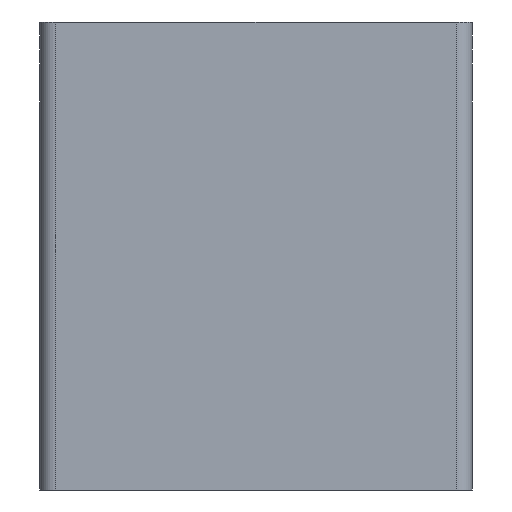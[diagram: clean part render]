
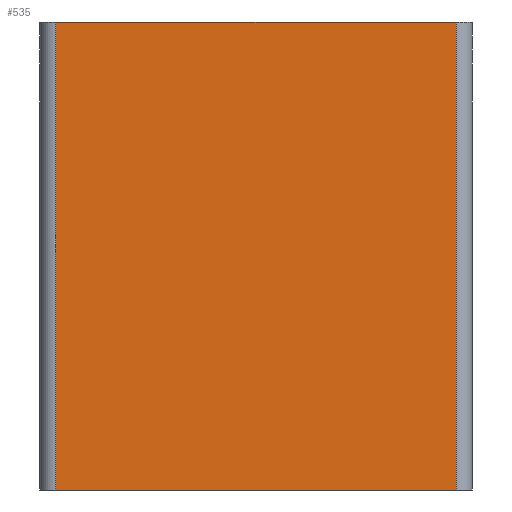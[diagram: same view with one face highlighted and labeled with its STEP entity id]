
A CAD part, left-side view. The second image highlights one B-rep face of the part: STEP entity #535.
In plain terms, the highlighted planar face has unit normal (-1, 0, 0).
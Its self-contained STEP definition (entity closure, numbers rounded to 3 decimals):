
#6 = ORIENTED_EDGE ( 'NONE', *, *, #136, .T. ) ;
#81 = CARTESIAN_POINT ( 'NONE',  ( -9.5, 8.5, 0. ) ) ;
#97 = DIRECTION ( 'NONE',  ( 0., 0., -1. ) ) ;
#136 = EDGE_CURVE ( 'NONE', #183, #181, #560, .T. ) ;
#169 = AXIS2_PLACEMENT_3D ( 'NONE', #454, #457, #97 ) ;
#171 = VECTOR ( 'NONE', #384, 1000. ) ;
#180 = EDGE_CURVE ( 'NONE', #666, #183, #476, .T. ) ;
#181 = VERTEX_POINT ( 'NONE', #525 ) ;
#183 = VERTEX_POINT ( 'NONE', #765 ) ;
#191 = DIRECTION ( 'NONE',  ( 0., -1., 0. ) ) ;
#252 = CARTESIAN_POINT ( 'NONE',  ( -9.5, -4.4, 0. ) ) ;
#265 = DIRECTION ( 'NONE',  ( 0., -1., 0. ) ) ;
#314 = LINE ( 'NONE', #365, #674 ) ;
#315 = VECTOR ( 'NONE', #265, 1000. ) ;
#319 = CARTESIAN_POINT ( 'NONE',  ( -9.5, -3.9, 14.5 ) ) ;
#335 = ORIENTED_EDGE ( 'NONE', *, *, #180, .T. ) ;
#341 = EDGE_CURVE ( 'NONE', #181, #419, #314, .T. ) ;
#363 = EDGE_CURVE ( 'NONE', #666, #419, #717, .T. ) ;
#365 = CARTESIAN_POINT ( 'NONE',  ( -9.5, -3.9, 14.5 ) ) ;
#384 = DIRECTION ( 'NONE',  ( 0., 0., -1. ) ) ;
#419 = VERTEX_POINT ( 'NONE', #319 ) ;
#454 = CARTESIAN_POINT ( 'NONE',  ( -9.5, -4.4, 14.5 ) ) ;
#457 = DIRECTION ( 'NONE',  ( 1., 0., 0. ) ) ;
#476 = LINE ( 'NONE', #81, #171 ) ;
#516 = EDGE_LOOP ( 'NONE', ( #528, #335, #6, #563 ) ) ;
#525 = CARTESIAN_POINT ( 'NONE',  ( -9.5, -3.9, 0. ) ) ;
#528 = ORIENTED_EDGE ( 'NONE', *, *, #363, .F. ) ;
#535 = ADVANCED_FACE ( 'NONE', ( #744 ), #632, .F. ) ;
#560 = LINE ( 'NONE', #252, #315 ) ;
#563 = ORIENTED_EDGE ( 'NONE', *, *, #341, .T. ) ;
#600 = CARTESIAN_POINT ( 'NONE',  ( -9.5, -4.4, 14.5 ) ) ;
#603 = VECTOR ( 'NONE', #191, 1000. ) ;
#632 = PLANE ( 'NONE',  #169 ) ;
#666 = VERTEX_POINT ( 'NONE', #715 ) ;
#674 = VECTOR ( 'NONE', #731, 1000. ) ;
#715 = CARTESIAN_POINT ( 'NONE',  ( -9.5, 8.5, 14.5 ) ) ;
#717 = LINE ( 'NONE', #600, #603 ) ;
#731 = DIRECTION ( 'NONE',  ( 0., 0., 1. ) ) ;
#744 = FACE_OUTER_BOUND ( 'NONE', #516, .T. ) ;
#765 = CARTESIAN_POINT ( 'NONE',  ( -9.5, 8.5, 0. ) ) ;
